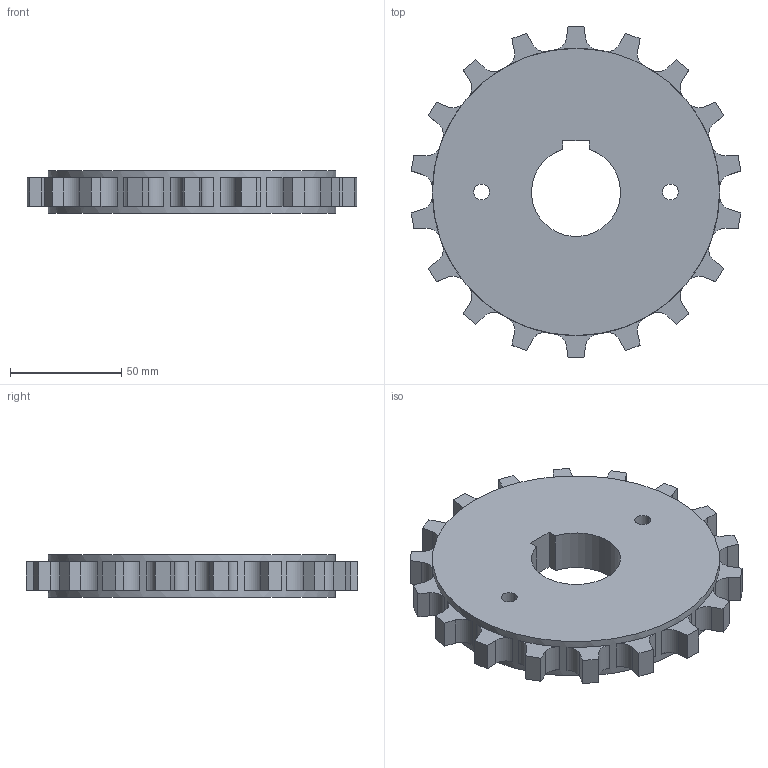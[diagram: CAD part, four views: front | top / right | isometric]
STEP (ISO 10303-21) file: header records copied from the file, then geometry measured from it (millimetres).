
FILE_DESCRIPTION((''),'2;1');
FILE_NAME('S1400_SPROCKET_57X25_PILOT','2008-12-12T',('jmumphre'),(''),'PRO/ENGINEER BY PARAMETRIC TECHNOLOGY CORPORATION, 2008150','PRO/ENGINEER BY PARAMETRIC TECHNOLOGY CORPORATION, 2008150','');
FILE_SCHEMA(('CONFIG_CONTROL_DESIGN'));
Length unit declared in the file: inch
Products named in the file (1): S1400_SPROCKET_57X25_PILOT
Bounding box: 148.02 x 149.05 x 19.05 mm (x, y, z)
Volume: 244387.2 mm3; surface area: 41310 mm2
Topology: 1 solids, 1 shells, 138 faces, 354 edges, 236 vertices
Faces by surface type: plane 95, cylinder 43
Entity records: 4272 total; most frequent: DIRECTION 752, CARTESIAN_POINT 728, ORIENTED_EDGE 708, EDGE_CURVE 354, AXIS2_PLACEMENT_3D 260, VERTEX_POINT 236, VECTOR 232, LINE 232
